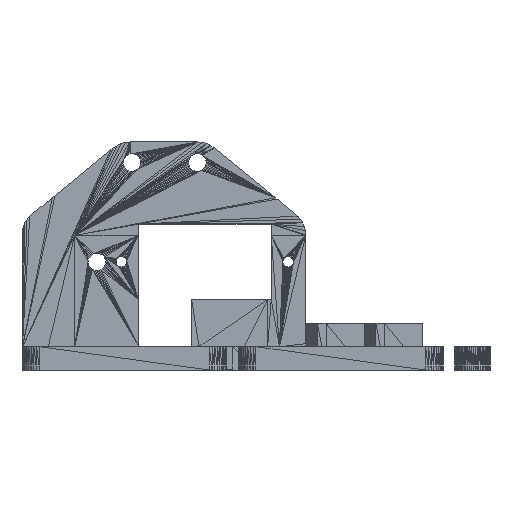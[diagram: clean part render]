
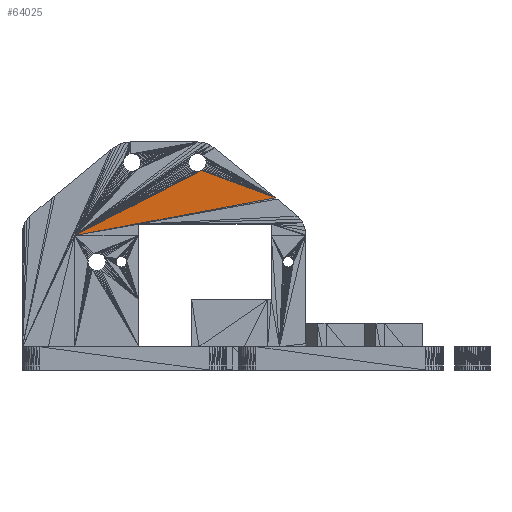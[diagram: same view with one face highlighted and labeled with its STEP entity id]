
A CAD part, front view. The second image highlights one B-rep face of the part: STEP entity #64025.
In plain terms, the highlighted planar face has unit normal (0, -1, 0).
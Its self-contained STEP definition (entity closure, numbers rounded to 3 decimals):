
#3563=FACE_OUTER_BOUND('',#9062,.T.);
#9062=EDGE_LOOP('',(#49093,#49094,#49095));
#16419=LINE('',#101518,#24669);
#16423=LINE('',#101526,#24673);
#16424=LINE('',#101527,#24674);
#24669=VECTOR('',#83967,10.);
#24673=VECTOR('',#83975,10.);
#24674=VECTOR('',#83976,10.);
#29165=VERTEX_POINT('',#100383);
#29361=VERTEX_POINT('',#101517);
#29363=VERTEX_POINT('',#101525);
#35634=EDGE_CURVE('',#29165,#29361,#16419,.T.);
#35638=EDGE_CURVE('',#29165,#29363,#16423,.T.);
#35639=EDGE_CURVE('',#29363,#29361,#16424,.T.);
#49093=ORIENTED_EDGE('',*,*,#35638,.F.);
#49094=ORIENTED_EDGE('',*,*,#35634,.T.);
#49095=ORIENTED_EDGE('',*,*,#35639,.F.);
#58526=PLANE('',#69546);
#64025=ADVANCED_FACE('',(#3563),#58526,.T.);
#69546=AXIS2_PLACEMENT_3D('',#101524,#83973,#83974);
#83967=DIRECTION('',(0.983,0.,0.185));
#83973=DIRECTION('center_axis',(0.,-1.,0.));
#83974=DIRECTION('ref_axis',(0.,0.,-1.));
#83975=DIRECTION('',(0.89,0.,0.457));
#83976=DIRECTION('',(0.938,0.,-0.346));
#100383=CARTESIAN_POINT('',(90.,260.,230.));
#101517=CARTESIAN_POINT('',(433.304,260.,294.6));
#101518=CARTESIAN_POINT('',(90.,260.,230.));
#101524=CARTESIAN_POINT('Origin',(433.304,260.,294.6));
#101525=CARTESIAN_POINT('',(306.753,260.,341.306));
#101526=CARTESIAN_POINT('',(90.,260.,230.));
#101527=CARTESIAN_POINT('',(306.753,260.,341.306));
